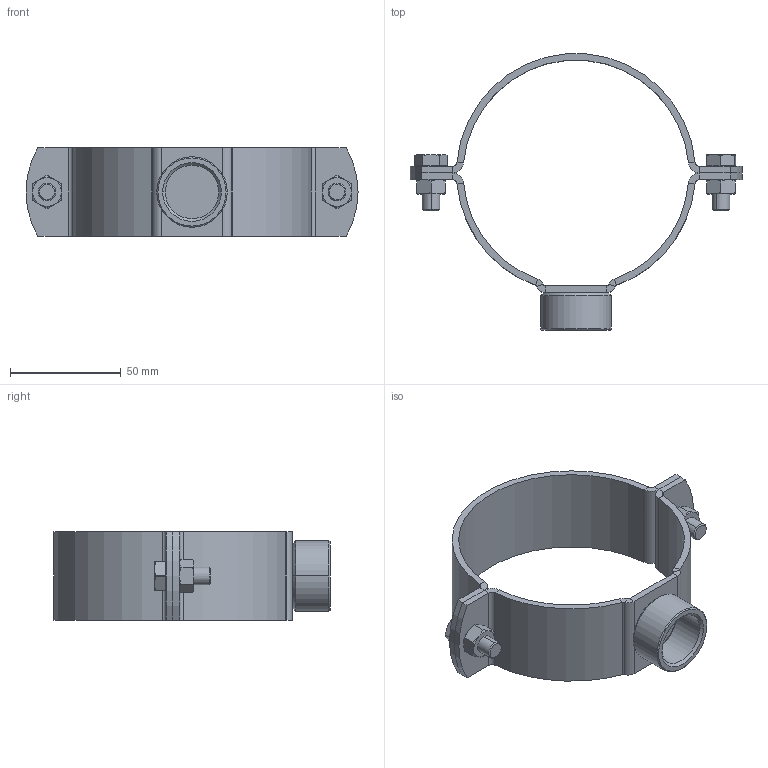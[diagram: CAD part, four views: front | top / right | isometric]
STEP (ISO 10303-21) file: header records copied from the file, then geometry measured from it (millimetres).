
FILE_DESCRIPTION (( 'STEP AP203' ), '1' );
FILE_NAME ('51.836.STEP', '2019-11-21T16:06:16', ( '' ), ( '' ), 'SwSTEP 2.0', 'SolidWorks 2019', '' );
FILE_SCHEMA (( 'CONFIG_CONTROL_DESIGN' ));
Length unit declared in the file: millimetre
Products named in the file (7): 1000003484; 1000003486; 51.836; 1000003377_07 - Gr. 103-106 - H-17110.007; 1000003263_E-10254.002-Inox V4A (1.4404); 1000003381_07 - Gr. 103-106 - H-17111.607; 1000003366_07 - Gr. 103-106 - H- 17109.007
Assembly tree (8 placements, depth 3):
  51.836
    1000003381_07 - Gr. 103-106 - H-17111.607
      1000003377_07 - Gr. 103-106 - H-17110.007
      1000003263_E-10254.002-Inox V4A (1.4404)
    1000003366_07 - Gr. 103-106 - H- 17109.007
    1000003484  x2
    1000003486  x2
Bounding box: 150 x 124.8 x 40 mm (x, y, z)
Volume: 58148.9 mm3; surface area: 41697.7 mm2
Topology: 7 solids, 7 shells, 214 faces, 462 edges, 264 vertices
Faces by surface type: plane 90, cylinder 62, cone 62
Entity records: 4974 total; most frequent: CARTESIAN_POINT 861, DIRECTION 757, ORIENTED_EDGE 650, EDGE_CURVE 325, AXIS2_PLACEMENT_3D 304, VERTEX_POINT 184, EDGE_LOOP 165, FACE_OUTER_BOUND 152
